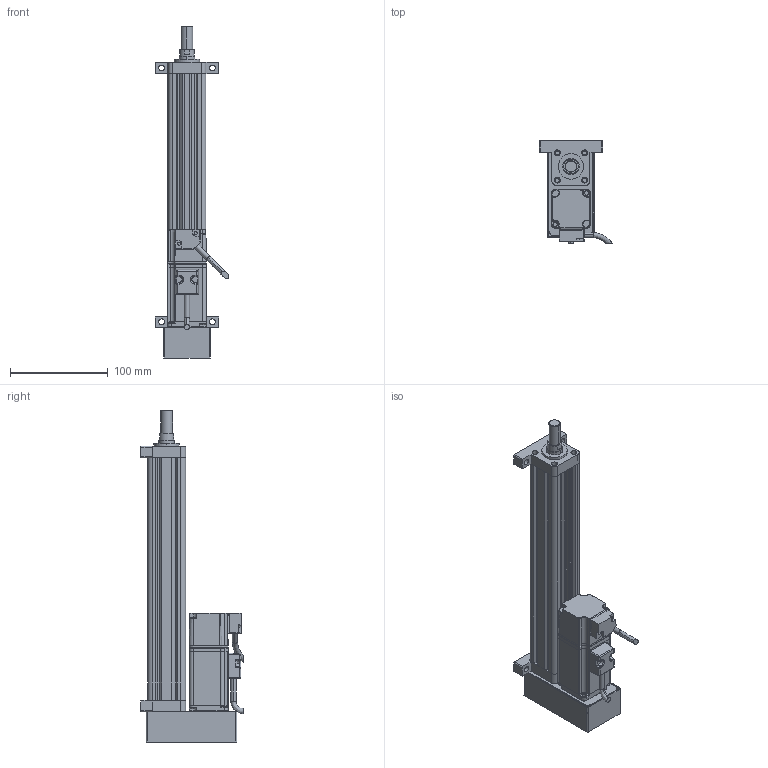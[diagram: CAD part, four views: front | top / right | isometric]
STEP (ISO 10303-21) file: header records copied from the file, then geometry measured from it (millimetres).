
FILE_DESCRIPTION (( 'STEP AP214' ), '1' );
FILE_NAME ('039-S200-D02-B-M2-C1-2.STEP', '2021-02-25T08:47:32', ( '' ), ( '' ), 'SwSTEP 2.0', 'SolidWorks 2018', '' );
FILE_SCHEMA (( 'AUTOMOTIVE_DESIGN' ));
Length unit declared in the file: millimetre
Products named in the file (8): CMC039-XT; CMC039-DT; CMC039-LJB; CMC039-HDB; ECMA-CX0401ES-40框號系列機種-100W低慣量系列; CMC039-QDB; CMC039-GT; 039-S200-D02-B-M2-C1-2
Assembly tree (7 placements, depth 2):
  039-S200-D02-B-M2-C1-2
    CMC039-GT
    CMC039-LJB
    CMC039-XT
    CMC039-DT
    ECMA-CX0401ES-40框號系列機種-100W低慣量系列
    CMC039-QDB
    CMC039-HDB
Bounding box: 75.34 x 104.89 x 340 mm (x, y, z)
Volume: 479100.4 mm3; surface area: 165806.9 mm2
Topology: 7 solids, 15 shells, 637 faces, 1658 edges, 1033 vertices
Faces by surface type: cylinder 260, plane 254, bspline 84, cone 39
Entity records: 25542 total; most frequent: CARTESIAN_POINT 10820, ORIENTED_EDGE 3250, DIRECTION 2583, EDGE_CURVE 1625, VERTEX_POINT 1033, AXIS2_PLACEMENT_3D 883, LINE 817, VECTOR 817
